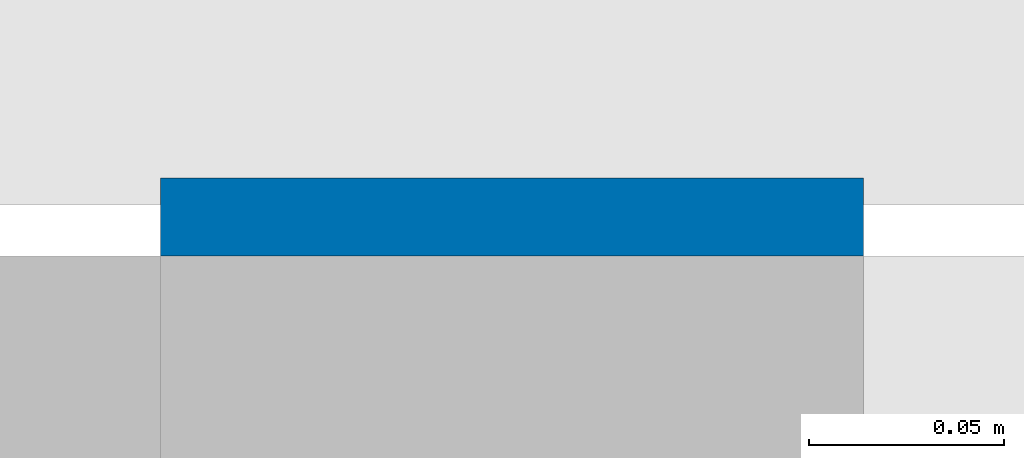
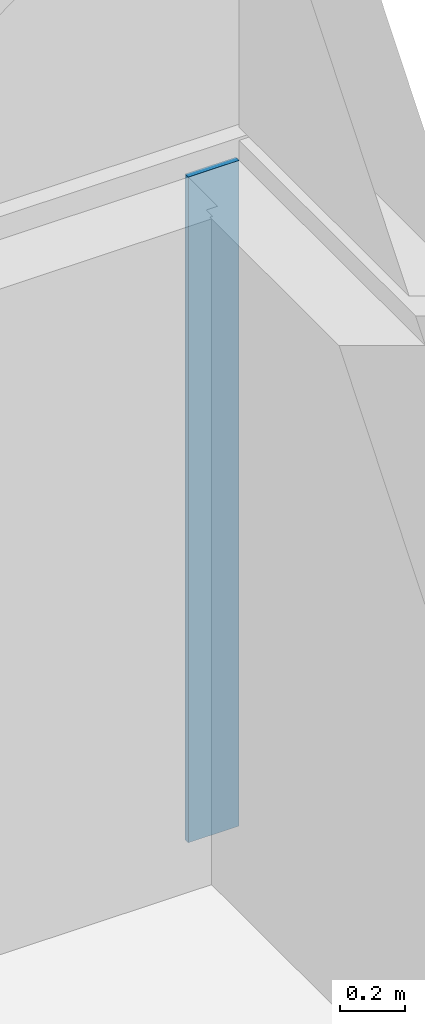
# One storey, part 6 of 15: 1 wall.
"""IFC2X3 building model written with IfcOpenShell, lengths in metres."""

from ifc_helpers import new_model, si_unit, frame, frame_2d, origin, place, context, project, spatial, rectangle, extrude, element, save


model = new_model("IFC2X3")

# Units and contexts
model_context = context("Model", 3, precision=1e-06, world=origin())
ifc_project = project(units=[si_unit("LENGTHUNIT", "METRE"), si_unit("PLANEANGLEUNIT", "RADIAN")], contexts=[model_context])

# Site, building, storey
site = spatial("IfcSite", under=ifc_project, CompositionType="ELEMENT")
building = spatial("IfcBuilding", under=site, CompositionType="ELEMENT")
storey = spatial("IfcBuildingStorey", under=building, Name="rdc", CompositionType="ELEMENT", Elevation=0.0)

# Wall
placement = place(None, origin())
wall_placement = place(placement, frame((39.69999999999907, 10.470077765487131, 0.0), z_axis=(0.0, 0.0, 1.0), x_axis=(-1.0, 0.0, 0.0)))
element("IfcWall", 1, at=wall_placement, inside=storey, context=model_context, shape_type="SweptSolid", body=[
    extrude(rectangle(XDim=0.18, YDim=0.020000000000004, at=frame_2d((0.09, 0.010000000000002), x_axis=(1.0, 0.0)), kind="CURVE"), frame((0.0, -0.020000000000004, 0.0), z_axis=(0.0, 0.0, 1.0), x_axis=(1.0, 0.0, 0.0)), (0.0, 0.0, 1.0), 2.5),
])

save(model, "model.ifc")
